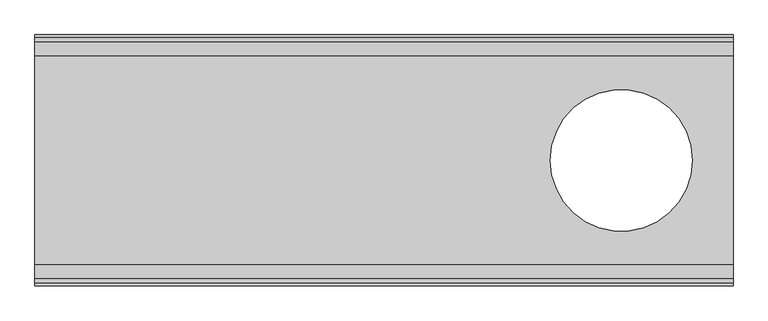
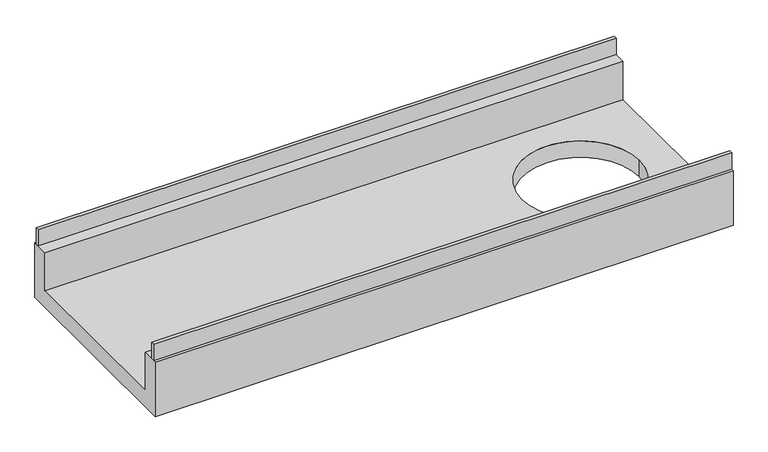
"""IFC4 building model written with IfcOpenShell, lengths in millimetres: sanitary terminal geometry, PF_ST_Slabdrain_H300SK_channels_USA_ACO : H300SK-13 Constant Depth Channel with Ductile iron edge rail."""

from ifc_helpers import new_model, si_unit, frame, origin, place, context, project, spatial, polyline, circle_curve, outline, extrude, source, transform, mapped, element, save
from ifc_brep_helpers import plane_surface, revolved_surface, advanced_brep


def sanitary_terminal_3825ba82(model_context):
    return source(origin(), model_context, "Body", "SolidModel", [
        advanced_brep(
        [(-605.6176554, 180.0, -30.0), (-605.6176554, 150.0, -30.0), (-605.6176554, 150.0, -100.0), (-605.6176554, -150.0, -100.0), (-605.6176554, -150.0, -30.0), (-605.6176554, -180.0, -30.0), (-605.6176554, -180.0, -130.0), (-605.6176554, 180.0, -130.0), (-1605.6176554, 180.0, -30.0), (-1605.6176554, 180.0, -130.0), (-1605.6176554, -180.0, -130.0), (-1605.6176554, -180.0, -30.0), (-1605.6176554, -150.0, -30.0), (-1605.6176554, -150.0, -100.0), (-1605.6176554, 150.0, -100.0), (-1605.6176554, 150.0, -30.0), (-867.2176554, 0.0, -130.0), (-664.0176554, 0.0, -130.0), (-664.0176554, 0.0, -100.0), (-867.2176554, 0.0, -100.0)],
        [
            (0, 1),
            (1, 2),
            (2, 3),
            (3, 4),
            (4, 5),
            (5, 6),
            (6, 7),
            (7, 0),
            (8, 9),
            (9, 10),
            (10, 11),
            (11, 12),
            (12, 13),
            (13, 14),
            (14, 15),
            (15, 8),
            (0, 8),
            (15, 1),
            (4, 12),
            (11, 5),
            (10, 6),
            (9, 7),
            (16, 17, circle_curve(frame((-765.6176554, 0.0, -130.0), z_axis=(0.0, 0.0, 1.0), x_axis=(1.0, 0.0, 0.0)), 101.6)),
            (17, 16, circle_curve(frame((-765.6176554, 0.0, -130.0), z_axis=(0.0, 0.0, 1.0), x_axis=(1.0, 0.0, 0.0)), 101.6)),
            (14, 2),
            (13, 3),
            (18, 19, circle_curve(frame((-765.6176554, 0.0, -100.0), z_axis=(0.0, 0.0, -1.0), x_axis=(1.0, 0.0, 0.0)), 101.6)),
            (19, 18, circle_curve(frame((-765.6176554, 0.0, -100.0), z_axis=(0.0, 0.0, -1.0), x_axis=(1.0, 0.0, 0.0)), 101.6)),
            (18, 17),
            (16, 19),
        ],
        [
            plane_surface(frame((-605.6176554, 0.0, -72.5), z_axis=(1.0, 0.0, 0.0), x_axis=(0.0, -1.0, 0.0))),
            plane_surface(frame((-1605.6176554, 0.0, -72.5), z_axis=(-1.0, 0.0, 0.0), x_axis=(0.0, -1.0, 0.0))),
            plane_surface(frame((-1605.6176554, 165.0, -30.0), z_axis=(0.0, 0.0, 1.0), x_axis=(0.0, -1.0, 0.0))),
            plane_surface(frame((-1605.6176554, -165.0, -30.0), z_axis=(0.0, 0.0, 1.0), x_axis=(0.0, -1.0, 0.0))),
            plane_surface(frame((-1605.6176554, -180.0, -80.0), z_axis=(0.0, -1.0, 0.0), x_axis=(0.0, 0.0, -1.0))),
            plane_surface(frame((-1605.6176554, 0.0, -130.0), z_axis=(0.0, 0.0, -1.0), x_axis=(0.0, 1.0, 0.0))),
            plane_surface(frame((-1605.6176554, 180.0, -80.0), z_axis=(0.0, 1.0, 0.0), x_axis=(0.0, 0.0, 1.0))),
            plane_surface(frame((-1605.6176554, 150.0, -65.0), z_axis=(0.0, -1.0, 0.0), x_axis=(0.0, 0.0, -1.0))),
            plane_surface(frame((-1605.6176554, 0.0, -100.0), z_axis=(0.0, 0.0, 1.0), x_axis=(0.0, -1.0, 0.0))),
            plane_surface(frame((-1605.6176554, -150.0, -65.0), z_axis=(0.0, 1.0, 0.0), x_axis=(0.0, 0.0, 1.0))),
            revolved_surface(polyline([(-664.0176554, 0.0, -130.0), (-664.0176554, 0.0, -100.0)]), (-765.6176554, 0.0, 0.0), (0.0, 0.0, -1.0)),
        ],
        [
            (0, [[1, 2, 3, 4, 5, 6, 7, 8]]),
            (1, [[9, 10, 11, 12, 13, 14, 15, 16]]),
            (2, [[-1, 17, -16, 18]]),
            (3, [[-5, 19, -12, 20]]),
            (4, [[-6, -20, -11, 21]]),
            (5, [[-7, -21, -10, 22], [23, 24]]),
            (6, [[-8, -22, -9, -17]]),
            (7, [[-2, -18, -15, 25]]),
            (8, [[-3, -25, -14, 26], [27, 28]]),
            (9, [[-4, -26, -13, -19]]),
            (10, [[29, -23, 30, -27]]),
            (10, [[-29, -28, -30, -24]]),
        ],
    ),
        extrude(outline(polyline([(-605.6176554, 176.0), (-605.6176554, 170.0), (-1605.6176554, 170.0), (-1605.6176554, 176.0), (-605.6176554, 176.0)])), frame((0.0, 0.0, -30.0), z_axis=(0.0, 0.0, 1.0), x_axis=(1.0, 0.0, 0.0)), (0.0, 0.0, 1.0), 30.0),
        extrude(outline(polyline([(-605.6176554, -170.0), (-605.6176554, -176.0), (-1605.6176554, -176.0), (-1605.6176554, -170.0), (-605.6176554, -170.0)])), frame((0.0, 0.0, -30.0), z_axis=(0.0, 0.0, 1.0), x_axis=(1.0, 0.0, 0.0)), (0.0, 0.0, 1.0), 30.0),
    ])


if __name__ == "__main__":
    model = new_model("IFC4")
    model_context = context("Model", 3, world=origin())
    ifc_project = project(units=[si_unit("LENGTHUNIT", "METRE", prefix="MILLI")], contexts=[model_context])
    site = spatial("IfcSite", under=ifc_project)
    building = spatial("IfcBuilding", under=site)
    placement = place(None, origin())
    sanitary_terminal_shape = sanitary_terminal_3825ba82(model_context)
    element("IfcSanitaryTerminal", 1, ObjectType="PF_ST_Slabdrain_H300SK_channels_USA_ACO : H300SK-13 Constant Depth Channel with Ductile iron edge rail", at=placement, inside=building, context=model_context, shape_type="MappedRepresentation", body=[
        mapped(sanitary_terminal_shape, transform((0.0, 0.0, 0.0), x_axis=(1.0, 0.0, 0.0), y_axis=(0.0, 1.0, 0.0), z_axis=(0.0, 0.0, 1.0))),
    ])
    save(model, "model.ifc")
